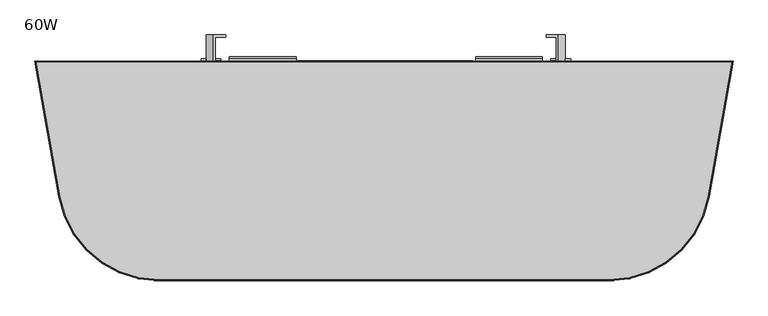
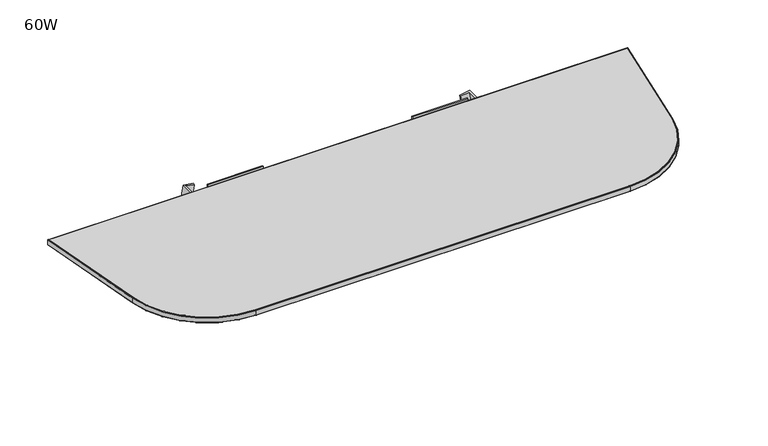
"""IFC4 building model written with IfcOpenShell, lengths in millimetres: furniture geometry, Steelcase Turnstone - Bivi - Table - Transaction : 60W."""

from ifc_helpers import new_model, si_unit, point, frame, frame_2d, origin, place, context, project, spatial, polyline, circle_curve, ellipse_curve, trimmed, segment, composite_curve, outline, extrude, source, transform, mapped, element, save
from ifc_brep_helpers import plane_surface, cylinder_surface, revolved_surface, advanced_brep


def furniture_60w_6a745f56(model_context):
    return source(origin(), model_context, "Body", "SolidModel", [
        extrude(outline(polyline([(31.8530203, -0.9500173), (31.8530203, 0.0), (1484.3003988, 0.0), (1484.3003988, -0.9500173), (31.8530203, -0.9500173)])), frame((0.0, 0.0, 1034.4354057), z_axis=(0.0, 0.0, 1.0), x_axis=(1.0, 0.0, 0.0)), (0.0, 0.0, 1.0), 13.9695688),
        advanced_brep(
        [(32.1431626, 0.0, 1034.4376155), (31.1410217, -0.1766827, 1034.4376155), (30.1404533, -0.3530882, 1035.4536155), (30.1404533, -0.3530882, 1047.3163545), (31.2125387, -0.1640739, 1048.4049746), (32.1431626, 0.0, 1048.4049746), (81.9109724, -282.2820676, 1034.4376155), (288.278204, -455.4484417, 1034.4376155), (1227.8931401, -455.4484417, 1034.4376155), (1434.2596047, -282.2864174, 1034.4376155), (1484.0343164, 0.0, 1034.4376155), (1485.0364536, -0.1767038, 1034.4376155), (1435.2617419, -282.4631212, 1034.4376155), (1227.8931401, -456.4660385, 1034.4376155), (288.278204, -456.4660385, 1034.4376155), (80.9088314, -282.4587503, 1034.4376155), (79.908263, -282.6351557, 1035.4536155), (79.908263, -282.6351557, 1047.3163545), (80.9803484, -282.4461414, 1048.4049746), (288.278204, -456.3934185, 1048.4049746), (1227.8931401, -456.3934185, 1048.4049746), (1435.1902252, -282.4505109, 1048.4049746), (1484.9649369, -0.1640935, 1048.4049746), (1484.0343164, 0.0, 1048.4049746), (1434.2596047, -282.2864174, 1048.4049746), (1227.8931401, -455.4484417, 1048.4049746), (288.278204, -455.4484417, 1048.4049746), (81.9109724, -282.2820676, 1048.4049746), (288.278204, -457.4820385, 1035.4536155), (288.278204, -457.4820385, 1047.3163545), (1227.8931401, -457.4820385, 1035.4536155), (1227.8931401, -457.4820385, 1047.3163545), (1436.2623066, -282.6395477, 1035.4536155), (1436.2623066, -282.6395477, 1047.3163545), (1486.0370183, -0.3531304, 1047.3163545), (1486.0370183, -0.3531304, 1035.4536155)],
        [
            (0, 1),
            (1, 2, circle_curve(frame((31.1410217, -0.1766827, 1035.4536155), z_axis=(-0.17362741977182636, 0.984811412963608, 0.0), x_axis=(-0.984811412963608, -0.17362741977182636, 0.0)), 1.016)),
            (2, 3),
            (3, 4, circle_curve(frame((31.2125387, -0.1640739, 1047.3163545), z_axis=(-0.17362741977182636, 0.984811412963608, 0.0), x_axis=(-0.984811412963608, -0.17362741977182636, 0.0)), 1.08862)),
            (4, 5),
            (5, 0),
            (0, 6),
            (6, 7, circle_curve(frame((288.278204, -245.8984417, 1034.4376155), z_axis=(0.0, 0.0, 1.0), x_axis=(-0.9848114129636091, -0.1736274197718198, 0.0)), 209.55)),
            (7, 8),
            (8, 9, circle_curve(frame((1227.8931401, -245.8984417, 1034.4376155), z_axis=(0.0, 0.0, 1.0), x_axis=(0.0, -1.0, 0.0)), 209.55)),
            (9, 10),
            (10, 11),
            (11, 12),
            (12, 13, circle_curve(frame((1227.8931401, -245.8984417, 1034.4376155), z_axis=(0.0, 0.0, -1.0), x_axis=(0.0, -1.0, 0.0)), 210.5675968)),
            (13, 14),
            (14, 15, circle_curve(frame((288.278204, -245.8984417, 1034.4376155), z_axis=(0.0, 0.0, -1.0), x_axis=(-0.9848114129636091, -0.1736274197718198, 0.0)), 210.5675968)),
            (15, 1),
            (15, 16, circle_curve(frame((80.9088314, -282.4587503, 1035.4536155), z_axis=(-0.17362741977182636, 0.984811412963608, 0.0), x_axis=(-0.984811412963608, -0.17362741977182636, 0.0)), 1.016)),
            (16, 2),
            (16, 17),
            (17, 3),
            (17, 18, circle_curve(frame((80.9803484, -282.4461414, 1047.3163545), z_axis=(-0.17362741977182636, 0.984811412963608, 0.0), x_axis=(-0.984811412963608, -0.17362741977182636, 0.0)), 1.08862)),
            (18, 4),
            (18, 19, circle_curve(frame((288.278204, -245.8984417, 1048.4049746), z_axis=(0.0, 0.0, 1.0), x_axis=(-0.9848114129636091, -0.1736274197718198, 0.0)), 210.4949768)),
            (19, 20),
            (20, 21, circle_curve(frame((1227.8931401, -245.8984417, 1048.4049746), z_axis=(0.0, 0.0, 1.0), x_axis=(0.0, -1.0, 0.0)), 210.4949768)),
            (21, 22),
            (22, 23),
            (23, 24),
            (24, 25, circle_curve(frame((1227.8931401, -245.8984417, 1048.4049746), z_axis=(0.0, 0.0, -1.0), x_axis=(0.0, -1.0, 0.0)), 209.55)),
            (25, 26),
            (26, 27, circle_curve(frame((288.278204, -245.8984417, 1048.4049746), z_axis=(0.0, 0.0, -1.0), x_axis=(-0.9848114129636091, -0.1736274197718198, 0.0)), 209.55)),
            (27, 5),
            (27, 6),
            (28, 16, circle_curve(frame((288.278204, -245.8984417, 1035.4536155), z_axis=(0.0, 0.0, -1.0), x_axis=(-0.9848114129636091, -0.1736274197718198, 0.0)), 211.5835968)),
            (14, 28, circle_curve(frame((288.278204, -456.4660385, 1035.4536155), z_axis=(-1.0, 0.0, 0.0), x_axis=(0.0, -1.0, 0.0)), 1.016)),
            (29, 17, circle_curve(frame((288.278204, -245.8984417, 1047.3163545), z_axis=(0.0, 0.0, -1.0), x_axis=(-0.9848114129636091, -0.1736274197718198, 0.0)), 211.5835968)),
            (28, 29),
            (29, 19, circle_curve(frame((288.278204, -456.3934185, 1047.3163545), z_axis=(-1.0, 0.0, 0.0), x_axis=(0.0, -1.0, 0.0)), 1.08862)),
            (26, 7),
            (13, 30, circle_curve(frame((1227.8931401, -456.4660385, 1035.4536155), z_axis=(-1.0, 0.0, 0.0), x_axis=(0.0, -1.0, 0.0)), 1.016)),
            (30, 28),
            (30, 31),
            (31, 29),
            (31, 20, circle_curve(frame((1227.8931401, -456.3934185, 1047.3163545), z_axis=(-1.0, 0.0, 0.0), x_axis=(0.0, -1.0, 0.0)), 1.08862)),
            (25, 8),
            (32, 30, circle_curve(frame((1227.8931401, -245.8984417, 1035.4536155), z_axis=(0.0, 0.0, -1.0), x_axis=(0.0, -1.0, 0.0)), 211.5835968)),
            (12, 32, circle_curve(frame((1435.2617419, -282.4631212, 1035.4536155), z_axis=(-0.17364817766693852, -0.9848077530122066, 0.0), x_axis=(0.9848077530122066, -0.17364817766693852, 0.0)), 1.016)),
            (33, 31, circle_curve(frame((1227.8931401, -245.8984417, 1047.3163545), z_axis=(0.0, 0.0, -1.0), x_axis=(0.0, -1.0, 0.0)), 211.5835968)),
            (32, 33),
            (33, 21, circle_curve(frame((1435.1902252, -282.4505109, 1047.3163545), z_axis=(-0.17364817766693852, -0.9848077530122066, 0.0), x_axis=(0.9848077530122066, -0.17364817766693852, 0.0)), 1.08862)),
            (24, 9),
            (10, 23),
            (22, 34, circle_curve(frame((1484.9649369, -0.1640935, 1047.3163545), z_axis=(0.1736481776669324, 0.9848077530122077, 0.0), x_axis=(0.9848077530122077, -0.1736481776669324, 0.0)), 1.08862)),
            (34, 35),
            (35, 11, circle_curve(frame((1485.0364536, -0.1767038, 1035.4536155), z_axis=(0.1736481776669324, 0.9848077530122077, 0.0), x_axis=(0.9848077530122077, -0.1736481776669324, 0.0)), 1.016)),
            (35, 32),
            (34, 33),
        ],
        [
            plane_surface(frame((32.1431626, 0.0, 0.0), z_axis=(-0.17362741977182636, 0.984811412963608, 0.0), x_axis=(0.0, 0.0, 1.0))),
            plane_surface(frame((32.1431626, 0.0, 1034.4376155), z_axis=(0.0, 0.0, -1.0000000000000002), x_axis=(0.17362741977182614, -0.9848114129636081, 0.0))),
            cylinder_surface(frame((31.1410217, -0.1766827, 1035.4536155), z_axis=(-0.17362741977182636, 0.984811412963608, 0.0), x_axis=(-0.984811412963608, -0.17362741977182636, 0.0)), 1.016),
            plane_surface(frame((30.1404533, -0.3530882, 1035.4536155), z_axis=(-0.984811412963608, -0.17362741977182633, 0.0), x_axis=(0.17362741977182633, -0.984811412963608, 0.0))),
            cylinder_surface(frame((31.2125387, -0.1640739, 1047.3163545), z_axis=(-0.17362741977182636, 0.984811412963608, 0.0), x_axis=(-0.984811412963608, -0.17362741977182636, 0.0)), 1.08862),
            plane_surface(frame((31.2125387, -0.1640739, 1048.4049746), z_axis=(0.0, 0.0, 1.0), x_axis=(0.17362741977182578, -0.9848114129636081, 0.0))),
            plane_surface(frame((32.1431626, 0.0, 1048.4049746), z_axis=(0.9848114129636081, 0.17362741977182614, 0.0), x_axis=(0.17362741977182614, -0.9848114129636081, 0.0))),
            revolved_surface(trimmed(ellipse_curve(frame((80.9088314, -282.4587503, 1035.4536155), z_axis=(-0.17362741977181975, 0.9848114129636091, 0.0), x_axis=(-0.9848114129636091, -0.17362741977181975, 0.0)), 1.016, 1.016), [point((80.9088314, -282.4587503, 1034.4376155))], [point((79.908263, -282.6351557, 1035.4536155))], True, "CARTESIAN"), (288.278204, -245.8984417, 0.0), (0.0, 0.0, 1.0)),
            cylinder_surface(frame((288.278204, -245.8984417, 0.0), z_axis=(0.0, 0.0, 1.0), x_axis=(-0.9848114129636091, -0.1736274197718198, 0.0)), 211.5835968),
            revolved_surface(trimmed(ellipse_curve(frame((80.9803484, -282.4461414, 1047.3163545), z_axis=(-0.17362741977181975, 0.9848114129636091, 0.0), x_axis=(-0.9848114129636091, -0.17362741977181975, 0.0)), 1.08862, 1.08862), [point((79.908263, -282.6351557, 1047.3163545))], [point((80.9803484, -282.4461414, 1048.4049746))], True, "CARTESIAN"), (288.278204, -245.8984417, 0.0), (0.0, 0.0, 1.0)),
            revolved_surface(polyline([(81.91097241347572, -282.28206751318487, 1048.4049746), (81.91097241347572, -282.28206751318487, 1034.4376155)]), (288.278204, -245.8984417, 0.0), (0.0, 0.0, 1.0)),
            cylinder_surface(frame((288.278204, -456.4660385, 1035.4536155), z_axis=(-1.0, 0.0, 0.0), x_axis=(0.0, -1.0, 0.0)), 1.016),
            plane_surface(frame((288.278204, -457.4820385, 1035.4536155), z_axis=(0.0, -1.0, 0.0), x_axis=(1.0, 0.0, 0.0))),
            cylinder_surface(frame((288.278204, -456.3934185, 1047.3163545), z_axis=(-1.0, 0.0, 0.0), x_axis=(0.0, -1.0, 0.0)), 1.08862),
            plane_surface(frame((288.278204, -455.4484417, 1048.4049746), z_axis=(0.0, 1.0, 0.0), x_axis=(1.0, 0.0, 0.0))),
            revolved_surface(trimmed(ellipse_curve(frame((1227.8931401, -456.4660385, 1035.4536155), z_axis=(-1.0, 0.0, 0.0), x_axis=(0.0, -1.0, 0.0)), 1.016, 1.016), [point((1227.8931401, -456.4660385, 1034.4376155))], [point((1227.8931401, -457.4820385, 1035.4536155))], True, "CARTESIAN"), (1227.8931401, -245.8984417, 0.0), (0.0, 0.0, 1.0)),
            cylinder_surface(frame((1227.8931401, -245.8984417, 0.0), z_axis=(0.0, 0.0, 1.0), x_axis=(0.0, -1.0, 0.0)), 211.5835968),
            revolved_surface(trimmed(ellipse_curve(frame((1227.8931401, -456.3934185, 1047.3163545), z_axis=(-1.0, 0.0, 0.0), x_axis=(0.0, -1.0, 0.0)), 1.08862, 1.08862), [point((1227.8931401, -457.4820385, 1047.3163545))], [point((1227.8931401, -456.3934185, 1048.4049746))], True, "CARTESIAN"), (1227.8931401, -245.8984417, 0.0), (0.0, 0.0, 1.0)),
            revolved_surface(polyline([(1227.8931401, -455.4484417, 1048.4049746), (1227.8931401, -455.4484417, 1034.4376155)]), (1227.8931401, -245.8984417, 0.0), (0.0, 0.0, 1.0)),
            plane_surface(frame((1484.0343164, 0.0, 0.0), z_axis=(0.17364817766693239, 0.9848077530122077, 0.0), x_axis=(0.0, 0.0, 1.0))),
            cylinder_surface(frame((1435.2617419, -282.4631212, 1035.4536155), z_axis=(-0.1736481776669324, -0.9848077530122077, 0.0), x_axis=(0.9848077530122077, -0.1736481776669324, 0.0)), 1.016),
            plane_surface(frame((1436.2623066, -282.6395477, 1035.4536155), z_axis=(0.9848077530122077, -0.17364817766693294, 0.0), x_axis=(0.17364817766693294, 0.9848077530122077, 0.0))),
            cylinder_surface(frame((1435.1902252, -282.4505109, 1047.3163545), z_axis=(-0.1736481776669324, -0.9848077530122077, 0.0), x_axis=(0.9848077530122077, -0.1736481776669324, 0.0)), 1.08862),
            plane_surface(frame((1434.2596047, -282.2864174, 1048.4049746), z_axis=(-0.9848077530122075, 0.17364817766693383, 0.0), x_axis=(0.17364817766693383, 0.9848077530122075, 0.0))),
        ],
        [
            (0, [[1, 2, 3, 4, 5, 6]]),
            (1, [[-1, 7, 8, 9, 10, 11, 12, 13, 14, 15, 16, 17]]),
            (2, [[-2, -17, 18, 19]]),
            (3, [[-3, -19, 20, 21]]),
            (4, [[-4, -21, 22, 23]]),
            (5, [[-5, -23, 24, 25, 26, 27, 28, 29, 30, 31, 32, 33]]),
            (6, [[-6, -33, 34, -7]]),
            (7, [[35, -18, -16, 36]]),
            (8, [[37, -20, -35, 38]]),
            (9, [[-24, -22, -37, 39]]),
            (10, [[-8, -34, -32, 40]]),
            (11, [[-36, -15, 41, 42]]),
            (12, [[-38, -42, 43, 44]]),
            (13, [[-39, -44, 45, -25]]),
            (14, [[-40, -31, 46, -9]]),
            (15, [[47, -41, -14, 48]]),
            (16, [[49, -43, -47, 50]]),
            (17, [[-26, -45, -49, 51]]),
            (18, [[-10, -46, -30, 52]]),
            (19, [[53, -28, 54, 55, 56, -12]]),
            (20, [[-48, -13, -56, 57]]),
            (21, [[-50, -57, -55, 58]]),
            (22, [[-51, -58, -54, -27]]),
            (23, [[-52, -29, -53, -11]]),
        ],
    ),
        extrude(outline(polyline([(-409.3484878, 0.0), (-1.930372, 0.0), (-61.1085865, -156.227548), (-423.2569655, -36.7176905), (-409.3484878, 0.0)])), frame((378.2084887, 0.7732387, 871.0953573), z_axis=(-0.9678153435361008, -0.18443418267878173, 0.17122351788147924), x_axis=(-0.23047850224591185, 0.9227957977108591, -0.30875164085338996)), (0.0, 0.0, 1.0), 4.3218717),
        extrude(outline(polyline([(25.7470764, 0.0), (25.7470764, -6.758903), (21.575596, -6.758903), (21.575596, -2.7917333), (-4.9270526, -2.7917333), (-4.9270526, 0.0), (25.7470764, 0.0)])), frame((1122.0498095, 5.1809307, 877.190408), z_axis=(-0.17172535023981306, 0.0, 0.9851448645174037), x_axis=(0.9851448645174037, 0.0, 0.17172535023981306)), (0.0, 0.0, 1.0), 64.5061012),
        extrude(outline(polyline([(-23.8864897, 1037.2887341), (6.0175769, 1037.2887341), (6.0175769, 1048.7336609), (9.0639026, 1048.7336609), (9.0639026, 1034.3825747), (-20.8970593, 1034.3825747), (-20.8970593, 1001.3626425), (-33.6404675, 1001.3626425), (-33.6404675, 1004.6067977), (-23.8864897, 1004.6067977), (-23.8864897, 1037.2887341)])), frame((949.3244794, 0.0, 0.0), z_axis=(1.0, 0.0, 0.0), x_axis=(0.0, 1.0, 0.0)), (0.0, 0.0, 1.0), 139.0659302),
        extrude(outline(polyline([(25.7470764, 0.0), (25.7470764, -56.5190607), (21.575596, -56.5190607), (21.575596, -4.6699601), (0.0, -4.6699601), (0.0, 0.0), (25.7470764, 0.0)])), frame((1110.9747479, 54.9410884, 940.7252329), z_axis=(-0.17172535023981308, 0.0, 0.9851448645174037), x_axis=(0.9851448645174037, 0.0, 0.17172535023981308)), (0.0, 0.0, 1.0), 85.7382081),
        extrude(outline(polyline([(-0.5372683, 0.0), (35.3157144, 0.0), (22.4086286, -395.5631873), (-77.426963, -395.5631872), (-0.5372683, 0.0)])), frame((1048.4592297, -389.6175782, 998.9468713), z_axis=(0.9678153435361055, -0.1844341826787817, 0.1712235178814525), x_axis=(-0.17421215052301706, 0.0, 0.9847081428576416)), (0.0, 0.0, 1.0), 4.3218717),
        extrude(outline(polyline([(6.758903, 0.0), (6.758903, -30.6398911), (3.9671697, -30.6398911), (3.9671697, -4.1602468), (0.0, -4.1602468), (0.0, 0.0), (6.758903, 0.0)])), frame((376.6193197, -1.5779723, 881.6059542), z_axis=(0.17172535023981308, 0.0, 0.9851448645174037), x_axis=(0.0, 1.0, 0.0)), (0.0, 0.0, 1.0), 64.5061012),
        extrude(outline(polyline([(-23.8864897, 1037.2887341), (6.0175769, 1037.2887341), (6.0175769, 1048.7336609), (9.0639026, 1048.7336609), (9.0639026, 1034.3825747), (-20.8970593, 1034.3825747), (-20.8970593, 1001.3626425), (-33.6404675, 1001.3626425), (-33.6404675, 1004.6067977), (-23.8864897, 1004.6067977), (-23.8864897, 1037.2887341)])), frame((435.6095904, 0.0, 0.0), z_axis=(1.0, 0.0, 0.0), x_axis=(0.0, 1.0, 0.0)), (0.0, 0.0, 1.0), 139.0659302),
        extrude(outline(polyline([(56.5190607, 0.0), (56.5190607, -25.7128385), (51.8491006, -25.7128385), (51.8491006, -4.1602467), (0.0, -4.1602467), (0.0, 0.0), (56.5190607, 0.0)])), frame((387.6943813, -1.5779723, 945.1407791), z_axis=(0.17172535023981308, 0.0, 0.9851448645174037), x_axis=(0.0, 1.0, 0.0)), (0.0, 0.0, 1.0), 85.7382081),
        extrude(outline(composite_curve([segment(polyline([(122.8705401, -14.7858044), (122.8705401, -52.7296638), (159.0634129, -257.9896453)]), True, "CONTINUOUS"), segment(trimmed(circle_curve(frame_2d((312.0806806, -231.0085724)), 155.3778057), [point((159.0634129, -257.9896453))], [point((312.0806806, -386.3863781))], True, "CARTESIAN"), True, "CONTINUOUS"), segment(polyline([(312.0806806, -386.3863781), (1189.017995, -386.3863781)]), True, "CONTINUOUS"), segment(trimmed(circle_curve(frame_2d((1189.017995, -233.9863781)), 152.4), [point((1189.017995, -386.3863781))], [point((1339.1026966, -260.4503604))], True, "CARTESIAN"), True, "CONTINUOUS"), segment(polyline([(1339.1026966, -260.4503604), (1375.7294599, -52.7296638), (1375.7294599, -14.7858044), (1378.7664838, -14.7858044), (1378.7664838, -53.4299154), (1341.7001879, -263.6433253)]), True, "CONTINUOUS"), segment(trimmed(circle_curve(frame_2d((1191.6154864, -237.179343)), 152.4), [point((1341.7001879, -263.6433253))], [point((1191.6154864, -389.579343))], False, "CARTESIAN"), True, "CONTINUOUS"), segment(polyline([(1191.6154864, -389.579343), (306.9845136, -389.579343)]), True, "CONTINUOUS"), segment(trimmed(circle_curve(frame_2d((306.9845136, -237.179343)), 152.4), [point((306.9845136, -389.579343))], [point((156.8998121, -263.6433253))], False, "CARTESIAN"), True, "CONTINUOUS"), segment(polyline([(156.8998121, -263.6433253), (119.8335162, -53.4299154), (119.8335162, -14.7858044), (122.8705401, -14.7858044)]), True, "CONTINUOUS")], self_intersect=False)), frame((0.0, 0.0, 998.3673311), z_axis=(0.0, 0.0, 1.0), x_axis=(1.0, 0.0, 0.0)), (0.0, 0.0, 1.0), 36.0702844),
        extrude(outline(polyline([(-23.8864897, 1037.2887341), (1.4527393, 1037.2887341), (1.4527393, 1012.0204948), (-1.5779723, 1012.0204948), (-1.5779723, 1034.3825747), (-20.8970593, 1034.3825747), (-20.8970593, 1001.3626425), (-33.6404675, 1001.3626425), (-33.6404675, 1004.6067977), (-23.8864897, 1004.6067977), (-23.8864897, 1037.2887341)])), frame((574.6755206, 0.0, 0.0), z_axis=(1.0, 0.0, 0.0), x_axis=(0.0, 1.0, 0.0)), (0.0, 0.0, 1.0), 368.9628998),
        extrude(outline(composite_curve([segment(polyline([(1483.8668027, -0.9500173), (1434.2596047, -282.2864174)]), True, "CONTINUOUS"), segment(trimmed(circle_curve(frame_2d((1227.8931401, -245.8984417)), 209.55), [point((1434.2596047, -282.2864174))], [point((1227.8931401, -455.4484417))], False, "CARTESIAN"), True, "CONTINUOUS"), segment(polyline([(1227.8931401, -455.4484417), (288.278204, -455.4484417)]), True, "CONTINUOUS"), segment(trimmed(circle_curve(frame_2d((288.278204, -245.8984417)), 209.55), [point((288.278204, -455.4484417))], [point((81.9109724, -282.2820676))], False, "CARTESIAN"), True, "CONTINUOUS"), segment(polyline([(81.9109724, -282.2820676), (32.3106557, -0.9500173), (1483.8668027, -0.9500173)]), True, "CONTINUOUS")], self_intersect=False)), frame((0.0, 0.0, 1034.4354057), z_axis=(0.0, 0.0, 1.0), x_axis=(1.0, 0.0, 0.0)), (0.0, 0.0, 1.0), 14.0002356),
    ])


if __name__ == "__main__":
    model = new_model("IFC4")
    model_context = context("Model", 3, world=origin())
    ifc_project = project(units=[si_unit("LENGTHUNIT", "METRE", prefix="MILLI")], contexts=[model_context])
    site = spatial("IfcSite", under=ifc_project)
    building = spatial("IfcBuilding", under=site)
    placement = place(None, origin())
    furniture_60w_shape = furniture_60w_6a745f56(model_context)
    element("IfcFurniture", 1, ObjectType="Steelcase Turnstone - Bivi - Table - Transaction : 60W", at=placement, inside=building, context=model_context, shape_type="MappedRepresentation", body=[
        mapped(furniture_60w_shape, transform((0.0, 0.0, 0.0), x_axis=(1.0, 0.0, 0.0), y_axis=(0.0, 1.0, 0.0), z_axis=(0.0, 0.0, 1.0))),
    ])
    save(model, "model.ifc")
